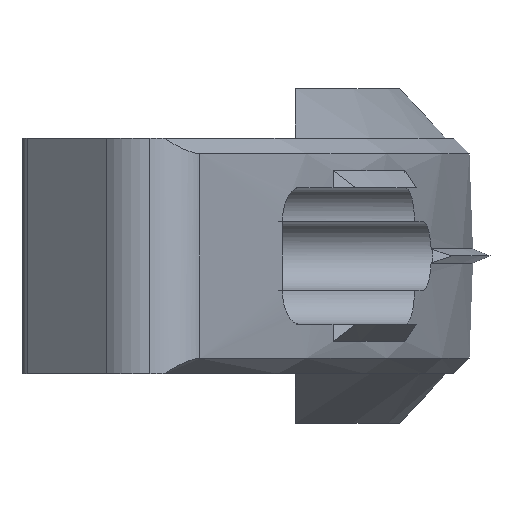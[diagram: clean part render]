
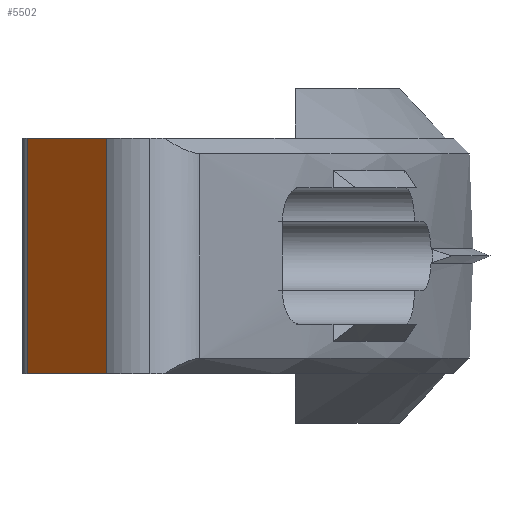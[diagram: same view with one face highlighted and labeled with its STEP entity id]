
A CAD part, left-side view. The second image highlights one B-rep face of the part: STEP entity #5502.
In plain terms, the highlighted planar face has unit normal (-0.707, 0.707, 0).
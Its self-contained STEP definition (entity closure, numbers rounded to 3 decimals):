
#892=ORIENTED_EDGE('',*,*,#2551,.T.);
#893=ORIENTED_EDGE('',*,*,#2550,.T.);
#894=ORIENTED_EDGE('',*,*,#2552,.F.);
#895=ORIENTED_EDGE('',*,*,#2553,.T.);
#2550=EDGE_CURVE('',#3363,#3364,#3794,.T.);
#2551=EDGE_CURVE('',#3365,#3363,#3795,.T.);
#2552=EDGE_CURVE('',#3366,#3364,#3796,.T.);
#2553=EDGE_CURVE('',#3366,#3365,#3797,.F.);
#3363=VERTEX_POINT('',#8413);
#3364=VERTEX_POINT('',#8415);
#3365=VERTEX_POINT('',#8419);
#3366=VERTEX_POINT('',#8421);
#3794=LINE('',#8416,#4198);
#3795=LINE('',#8418,#4199);
#3796=LINE('',#8420,#4200);
#3797=LINE('',#8422,#4201);
#4198=VECTOR('',#6502,1000.);
#4199=VECTOR('',#6505,1000.);
#4200=VECTOR('',#6506,1000.);
#4201=VECTOR('',#6507,1000.);
#4555=EDGE_LOOP('',(#892,#893,#894,#895));
#4919=FACE_BOUND('',#4555,.T.);
#5253=PLANE('',#5902);
#5502=ADVANCED_FACE('',(#4919),#5253,.T.);
#5902=AXIS2_PLACEMENT_3D('',#8417,#6503,#6504);
#6502=DIRECTION('',(0.,0.,-1.));
#6503=DIRECTION('',(-0.707,0.707,0.));
#6504=DIRECTION('',(-0.707,-0.707,0.));
#6505=DIRECTION('',(0.707,0.707,0.));
#6506=DIRECTION('',(0.707,0.707,0.));
#6507=DIRECTION('',(0.,0.,-1.));
#8413=CARTESIAN_POINT('',(-25.146,-37.146,3.45));
#8415=CARTESIAN_POINT('',(-25.146,-37.146,-3.45));
#8416=CARTESIAN_POINT('',(-25.146,-37.146,58.467));
#8417=CARTESIAN_POINT('',(-28.,-40.,58.467));
#8418=CARTESIAN_POINT('',(6.,-6.,3.45));
#8419=CARTESIAN_POINT('',(-27.473,-39.473,3.45));
#8420=CARTESIAN_POINT('',(6.,-6.,-3.45));
#8421=CARTESIAN_POINT('',(-27.473,-39.473,-3.45));
#8422=CARTESIAN_POINT('',(-27.473,-39.473,58.467));
